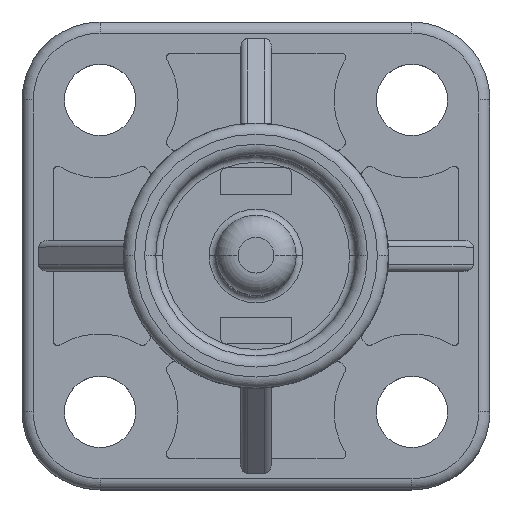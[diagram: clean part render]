
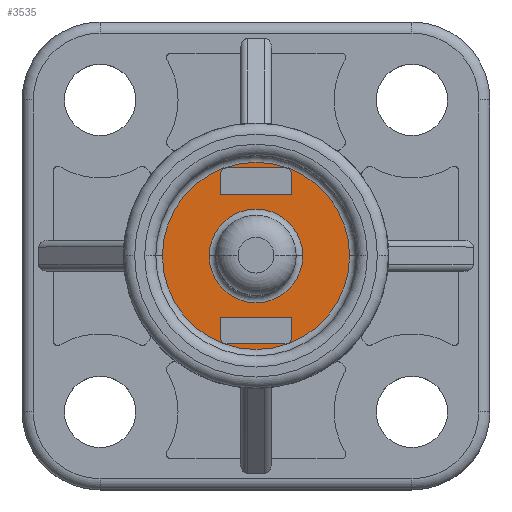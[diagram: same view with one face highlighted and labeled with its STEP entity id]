
A CAD part, top view. The second image highlights one B-rep face of the part: STEP entity #3535.
In plain terms, the highlighted planar face has unit normal (0, 0, 1).
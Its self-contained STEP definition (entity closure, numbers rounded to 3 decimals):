
#57 = CARTESIAN_POINT ( 'NONE',  ( -5.305, 1.408, 3. ) ) ;
#87 = VERTEX_POINT ( 'NONE', #6913 ) ;
#237 = ORIENTED_EDGE ( 'NONE', *, *, #7916, .T. ) ;
#238 = CARTESIAN_POINT ( 'NONE',  ( -6.905, -2.242, 3. ) ) ;
#265 = LINE ( 'NONE', #6053, #6544 ) ;
#277 = CARTESIAN_POINT ( 'NONE',  ( -5.605, 1.708, 3. ) ) ;
#294 = FACE_BOUND ( 'NONE', #7150, .T. ) ;
#305 = EDGE_CURVE ( 'NONE', #7378, #1806, #4521, .T. ) ;
#308 = CARTESIAN_POINT ( 'NONE',  ( -2.705, -2.242, 3. ) ) ;
#325 = DIRECTION ( 'NONE',  ( 0., 0., 1. ) ) ;
#365 = DIRECTION ( 'NONE',  ( 0., -1., 0. ) ) ;
#383 = ORIENTED_EDGE ( 'NONE', *, *, #6239, .F. ) ;
#446 = AXIS2_PLACEMENT_3D ( 'NONE', #1122, #5388, #1749 ) ;
#471 = AXIS2_PLACEMENT_3D ( 'NONE', #5822, #2177, #6435 ) ;
#599 = DIRECTION ( 'NONE',  ( 0., 1., 0. ) ) ;
#602 = VERTEX_POINT ( 'NONE', #7252 ) ;
#791 = VERTEX_POINT ( 'NONE', #4980 ) ;
#829 = ORIENTED_EDGE ( 'NONE', *, *, #4272, .T. ) ;
#848 = DIRECTION ( 'NONE',  ( 1., 0., 0. ) ) ;
#924 = CARTESIAN_POINT ( 'NONE',  ( -8.205, 1.708, 3. ) ) ;
#964 = CARTESIAN_POINT ( 'NONE',  ( -8.505, 0.508, 3. ) ) ;
#1037 = EDGE_CURVE ( 'NONE', #5907, #87, #6646, .T. ) ;
#1115 = CARTESIAN_POINT ( 'NONE',  ( -4.805, -2.242, 3. ) ) ;
#1122 = CARTESIAN_POINT ( 'NONE',  ( -6.905, -2.242, 3. ) ) ;
#1251 = LINE ( 'NONE', #924, #7531 ) ;
#1468 = LINE ( 'NONE', #7656, #4514 ) ;
#1539 = EDGE_CURVE ( 'NONE', #791, #7378, #1580, .T. ) ;
#1564 = CARTESIAN_POINT ( 'NONE',  ( -5.305, -4.992, 3. ) ) ;
#1580 = LINE ( 'NONE', #5639, #2791 ) ;
#1658 = AXIS2_PLACEMENT_3D ( 'NONE', #6266, #2607, #6877 ) ;
#1749 = DIRECTION ( 'NONE',  ( -1., 0., 0. ) ) ;
#1754 = VERTEX_POINT ( 'NONE', #3917 ) ;
#1806 = VERTEX_POINT ( 'NONE', #277 ) ;
#1995 = DIRECTION ( 'NONE',  ( 0., 1., 0. ) ) ;
#2005 = DIRECTION ( 'NONE',  ( 0., 0., 1. ) ) ;
#2012 = CIRCLE ( 'NONE', #5328, 0.3 ) ;
#2014 = EDGE_CURVE ( 'NONE', #87, #7434, #1468, .T. ) ;
#2079 = DIRECTION ( 'NONE',  ( 0., 0., 1. ) ) ;
#2082 = LINE ( 'NONE', #964, #5139 ) ;
#2158 = VERTEX_POINT ( 'NONE', #1115 ) ;
#2177 = DIRECTION ( 'NONE',  ( 0., 0., 1. ) ) ;
#2411 = EDGE_CURVE ( 'NONE', #2961, #5907, #265, .T. ) ;
#2439 = CARTESIAN_POINT ( 'NONE',  ( -5.305, -5.892, 3. ) ) ;
#2443 = ORIENTED_EDGE ( 'NONE', *, *, #1539, .F. ) ;
#2574 = CIRCLE ( 'NONE', #6591, 4.2 ) ;
#2607 = DIRECTION ( 'NONE',  ( 0., 0., 1. ) ) ;
#2671 = VERTEX_POINT ( 'NONE', #4452 ) ;
#2791 = VECTOR ( 'NONE', #1995, 1000. ) ;
#2854 = EDGE_CURVE ( 'NONE', #3075, #2158, #6825, .T. ) ;
#2961 = VERTEX_POINT ( 'NONE', #2439 ) ;
#3075 = VERTEX_POINT ( 'NONE', #5018 ) ;
#3157 = CARTESIAN_POINT ( 'NONE',  ( -6.905, -2.242, 3. ) ) ;
#3174 = EDGE_CURVE ( 'NONE', #7434, #2671, #4545, .T. ) ;
#3340 = EDGE_LOOP ( 'NONE', ( #4945, #829 ) ) ;
#3381 = DIRECTION ( 'NONE',  ( -1., 0., 0. ) ) ;
#3499 = CARTESIAN_POINT ( 'NONE',  ( -8.505, 1.408, 3. ) ) ;
#3530 = VERTEX_POINT ( 'NONE', #5199 ) ;
#3535 = ADVANCED_FACE ( 'NONE', ( #6687, #294, #5087, #6772 ), #6998, .T. ) ;
#3651 = DIRECTION ( 'NONE',  ( 0., 0., 1. ) ) ;
#3672 = AXIS2_PLACEMENT_3D ( 'NONE', #3157, #7413, #3784 ) ;
#3700 = ORIENTED_EDGE ( 'NONE', *, *, #3174, .F. ) ;
#3769 = EDGE_CURVE ( 'NONE', #6935, #5359, #2574, .T. ) ;
#3784 = DIRECTION ( 'NONE',  ( -1., 0., 0. ) ) ;
#3787 = LINE ( 'NONE', #7472, #6628 ) ;
#3828 = ORIENTED_EDGE ( 'NONE', *, *, #2014, .F. ) ;
#3896 = CARTESIAN_POINT ( 'NONE',  ( -8.205, -6.192, 3. ) ) ;
#3917 = CARTESIAN_POINT ( 'NONE',  ( -8.505, 0.508, 3. ) ) ;
#3984 = CARTESIAN_POINT ( 'NONE',  ( -8.205, -5.892, 3. ) ) ;
#4002 = EDGE_CURVE ( 'NONE', #2671, #602, #7927, .T. ) ;
#4062 = ORIENTED_EDGE ( 'NONE', *, *, #305, .F. ) ;
#4215 = CARTESIAN_POINT ( 'NONE',  ( -11.105, -2.242, 3. ) ) ;
#4260 = DIRECTION ( 'NONE',  ( -1., 0., 0. ) ) ;
#4272 = EDGE_CURVE ( 'NONE', #5359, #6935, #6673, .T. ) ;
#4286 = EDGE_CURVE ( 'NONE', #3530, #5784, #2012, .T. ) ;
#4391 = EDGE_CURVE ( 'NONE', #1806, #3530, #1251, .T. ) ;
#4448 = DIRECTION ( 'NONE',  ( 1., 0., 0. ) ) ;
#4452 = CARTESIAN_POINT ( 'NONE',  ( -8.205, -6.192, 3. ) ) ;
#4499 = DIRECTION ( 'NONE',  ( 1., 0., 0. ) ) ;
#4506 = DIRECTION ( 'NONE',  ( 0., 0., 1. ) ) ;
#4514 = VECTOR ( 'NONE', #365, 1000. ) ;
#4521 = CIRCLE ( 'NONE', #7014, 0.3 ) ;
#4545 = CIRCLE ( 'NONE', #6004, 0.3 ) ;
#4556 = EDGE_LOOP ( 'NONE', ( #5874, #6534, #383, #7076, #3700, #3828 ) ) ;
#4599 = DIRECTION ( 'NONE',  ( -1., 0., 0. ) ) ;
#4622 = DIRECTION ( 'NONE',  ( 0., -1., 0. ) ) ;
#4793 = EDGE_CURVE ( 'NONE', #1754, #791, #3787, .T. ) ;
#4929 = AXIS2_PLACEMENT_3D ( 'NONE', #238, #4506, #848 ) ;
#4945 = ORIENTED_EDGE ( 'NONE', *, *, #3769, .T. ) ;
#4980 = CARTESIAN_POINT ( 'NONE',  ( -5.305, 0.508, 3. ) ) ;
#5018 = CARTESIAN_POINT ( 'NONE',  ( -9.005, -2.242, 3. ) ) ;
#5087 = FACE_BOUND ( 'NONE', #6743, .T. ) ;
#5139 = VECTOR ( 'NONE', #4622, 1000. ) ;
#5199 = CARTESIAN_POINT ( 'NONE',  ( -8.205, 1.708, 3. ) ) ;
#5328 = AXIS2_PLACEMENT_3D ( 'NONE', #5721, #2079, #6334 ) ;
#5359 = VERTEX_POINT ( 'NONE', #4215 ) ;
#5388 = DIRECTION ( 'NONE',  ( 0., 0., -1. ) ) ;
#5639 = CARTESIAN_POINT ( 'NONE',  ( -5.305, 0.508, 3. ) ) ;
#5657 = CARTESIAN_POINT ( 'NONE',  ( -5.605, 1.408, 3. ) ) ;
#5721 = CARTESIAN_POINT ( 'NONE',  ( -8.205, 1.408, 3. ) ) ;
#5784 = VERTEX_POINT ( 'NONE', #3499 ) ;
#5822 = CARTESIAN_POINT ( 'NONE',  ( 0.095, -9.242, 3. ) ) ;
#5874 = ORIENTED_EDGE ( 'NONE', *, *, #1037, .F. ) ;
#5886 = ORIENTED_EDGE ( 'NONE', *, *, #4286, .F. ) ;
#5907 = VERTEX_POINT ( 'NONE', #1564 ) ;
#6004 = AXIS2_PLACEMENT_3D ( 'NONE', #3984, #325, #4599 ) ;
#6053 = CARTESIAN_POINT ( 'NONE',  ( -5.305, -4.992, 3. ) ) ;
#6071 = CARTESIAN_POINT ( 'NONE',  ( -8.505, -4.992, 3. ) ) ;
#6116 = ORIENTED_EDGE ( 'NONE', *, *, #7650, .F. ) ;
#6158 = ORIENTED_EDGE ( 'NONE', *, *, #4391, .F. ) ;
#6209 = CARTESIAN_POINT ( 'NONE',  ( -8.505, -5.892, 3. ) ) ;
#6239 = EDGE_CURVE ( 'NONE', #602, #2961, #7662, .T. ) ;
#6253 = DIRECTION ( 'NONE',  ( -1., 0., 0. ) ) ;
#6266 = CARTESIAN_POINT ( 'NONE',  ( -5.605, -5.892, 3. ) ) ;
#6334 = DIRECTION ( 'NONE',  ( -1., 0., 0. ) ) ;
#6435 = DIRECTION ( 'NONE',  ( 1., 0., 0. ) ) ;
#6534 = ORIENTED_EDGE ( 'NONE', *, *, #2411, .F. ) ;
#6544 = VECTOR ( 'NONE', #599, 1000. ) ;
#6591 = AXIS2_PLACEMENT_3D ( 'NONE', #7291, #3651, #7906 ) ;
#6628 = VECTOR ( 'NONE', #4448, 1000. ) ;
#6646 = LINE ( 'NONE', #6071, #7868 ) ;
#6655 = ORIENTED_EDGE ( 'NONE', *, *, #4793, .F. ) ;
#6673 = CIRCLE ( 'NONE', #4929, 4.2 ) ;
#6687 = FACE_BOUND ( 'NONE', #4556, .T. ) ;
#6743 = EDGE_LOOP ( 'NONE', ( #6862, #237 ) ) ;
#6772 = FACE_OUTER_BOUND ( 'NONE', #3340, .T. ) ;
#6825 = CIRCLE ( 'NONE', #446, 2.1 ) ;
#6862 = ORIENTED_EDGE ( 'NONE', *, *, #2854, .T. ) ;
#6877 = DIRECTION ( 'NONE',  ( -1., 0., 0. ) ) ;
#6913 = CARTESIAN_POINT ( 'NONE',  ( -8.505, -4.992, 3. ) ) ;
#6935 = VERTEX_POINT ( 'NONE', #308 ) ;
#6998 = PLANE ( 'NONE',  #471 ) ;
#7014 = AXIS2_PLACEMENT_3D ( 'NONE', #5657, #2005, #6253 ) ;
#7076 = ORIENTED_EDGE ( 'NONE', *, *, #4002, .F. ) ;
#7150 = EDGE_LOOP ( 'NONE', ( #6655, #6116, #5886, #6158, #4062, #2443 ) ) ;
#7252 = CARTESIAN_POINT ( 'NONE',  ( -5.605, -6.192, 3. ) ) ;
#7291 = CARTESIAN_POINT ( 'NONE',  ( -6.905, -2.242, 3. ) ) ;
#7343 = VECTOR ( 'NONE', #4499, 1000. ) ;
#7378 = VERTEX_POINT ( 'NONE', #57 ) ;
#7413 = DIRECTION ( 'NONE',  ( 0., 0., -1. ) ) ;
#7434 = VERTEX_POINT ( 'NONE', #6209 ) ;
#7472 = CARTESIAN_POINT ( 'NONE',  ( -8.505, 0.508, 3. ) ) ;
#7496 = CIRCLE ( 'NONE', #3672, 2.1 ) ;
#7531 = VECTOR ( 'NONE', #3381, 1000. ) ;
#7650 = EDGE_CURVE ( 'NONE', #5784, #1754, #2082, .T. ) ;
#7656 = CARTESIAN_POINT ( 'NONE',  ( -8.505, -4.992, 3. ) ) ;
#7662 = CIRCLE ( 'NONE', #1658, 0.3 ) ;
#7868 = VECTOR ( 'NONE', #4260, 1000. ) ;
#7906 = DIRECTION ( 'NONE',  ( 1., 0., 0. ) ) ;
#7916 = EDGE_CURVE ( 'NONE', #2158, #3075, #7496, .T. ) ;
#7927 = LINE ( 'NONE', #3896, #7343 ) ;
